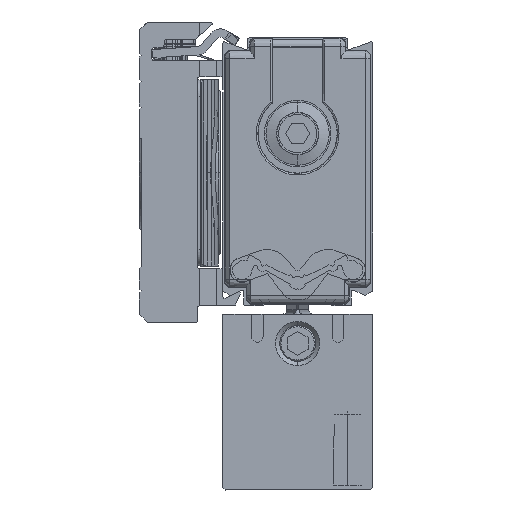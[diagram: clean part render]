
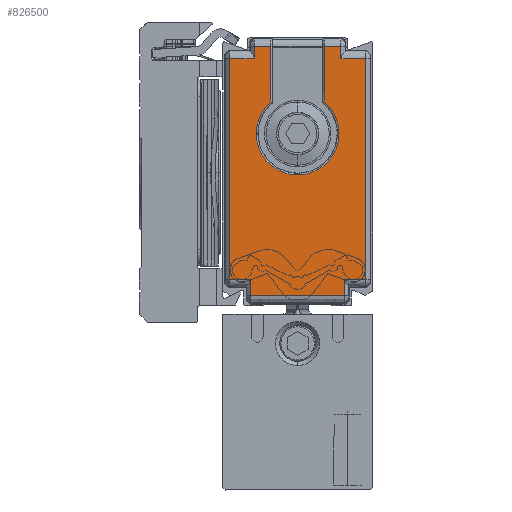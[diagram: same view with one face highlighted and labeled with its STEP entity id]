
A CAD part, left-side view. The second image highlights one B-rep face of the part: STEP entity #826500.
In plain terms, the highlighted planar face has unit normal (-1, 0, 0) as drawn and (0, 0, -1) by its records, which use the part's own axes.
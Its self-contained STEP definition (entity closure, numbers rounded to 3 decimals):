
#785660=CARTESIAN_POINT('',(24.688,30.224,-494.5));
#785670=VERTEX_POINT('',#785660);
#786720=CARTESIAN_POINT('',(31.365,35.75,-494.5));
#786730=DIRECTION('',(0.,-1.,0.));
#786740=VECTOR('',#786730,1.);
#786750=LINE('',#786720,#786740);
#786760=CARTESIAN_POINT('',(31.365,23.776,-494.5));
#786770=VERTEX_POINT('',#786760);
#786780=CARTESIAN_POINT('',(31.365,21.802,-494.5));
#786790=VERTEX_POINT('',#786780);
#786800=EDGE_CURVE('',#786770,#786790,#786750,.T.);
#793560=CARTESIAN_POINT('',(3.435,32.648,-494.5));
#793570=VERTEX_POINT('',#793560);
#793770=CARTESIAN_POINT('',(1.435,32.648,-494.5));
#793780=VERTEX_POINT('',#793770);
#793810=CARTESIAN_POINT('',(3.935,32.648,-494.5));
#793820=CARTESIAN_POINT('',(3.435,32.648,-494.5));
#793830=CARTESIAN_POINT('',(2.935,32.648,-494.5));
#793840=CARTESIAN_POINT('',(2.102,32.648,-494.5));
#793850=CARTESIAN_POINT('',(1.768,32.648,-494.5));
#793860=CARTESIAN_POINT('',(1.435,32.648,-494.5));
#793870=B_SPLINE_CURVE_WITH_KNOTS('',3,(#793810,#793820,#793830,#793840,
#793850,#793860),.UNSPECIFIED.,.F.,.F.,(4,2,4),(37.084,
38.584,39.584),.UNSPECIFIED.);
#793880=EDGE_CURVE('',#793570,#793780,#793870,.T.);
#795220=CARTESIAN_POINT('',(24.688,23.776,-494.5));
#795230=VERTEX_POINT('',#795220);
#797020=CARTESIAN_POINT('',(29.865,35.75,-494.5));
#797030=DIRECTION('',(0.,1.,0.));
#797040=VECTOR('',#797030,1.);
#797050=LINE('',#797020,#797040);
#797060=CARTESIAN_POINT('',(29.865,32.198,-494.5));
#797070=VERTEX_POINT('',#797060);
#797080=CARTESIAN_POINT('',(29.865,35.198,-494.5));
#797090=VERTEX_POINT('',#797080);
#797100=EDGE_CURVE('',#797070,#797090,#797050,.T.);
#798950=CARTESIAN_POINT('',(3.435,35.75,-494.5));
#798960=DIRECTION('',(0.,1.,0.));
#798970=VECTOR('',#798960,1.);
#798980=LINE('',#798950,#798970);
#798990=CARTESIAN_POINT('',(3.435,35.198,-494.5));
#799000=VERTEX_POINT('',#798990);
#799010=EDGE_CURVE('',#793570,#799000,#798980,.T.);
#799440=CARTESIAN_POINT('',(31.365,32.198,-494.5));
#799450=VERTEX_POINT('',#799440);
#799480=CARTESIAN_POINT('',(31.365,30.224,-494.5));
#799490=VERTEX_POINT('',#799480);
#799500=EDGE_CURVE('',#799450,#799490,#786750,.T.);
#800210=CARTESIAN_POINT('',(3.435,18.802,-494.5));
#800220=VERTEX_POINT('',#800210);
#800530=CARTESIAN_POINT('',(3.435,35.75,-494.5));
#800540=DIRECTION('',(0.,-1.,0.));
#800550=VECTOR('',#800540,1.);
#800560=LINE('',#800530,#800550);
#800570=CARTESIAN_POINT('',(3.435,21.352,-494.5));
#800580=VERTEX_POINT('',#800570);
#800590=EDGE_CURVE('',#800580,#800220,#800560,.T.);
#801440=CARTESIAN_POINT('',(1.435,21.352,-494.5));
#801450=VERTEX_POINT('',#801440);
#802920=CARTESIAN_POINT('',(3.935,21.352,-494.5));
#802930=CARTESIAN_POINT('',(3.435,21.352,-494.5));
#802940=CARTESIAN_POINT('',(2.935,21.352,-494.5));
#802950=CARTESIAN_POINT('',(2.102,21.352,-494.5));
#802960=CARTESIAN_POINT('',(1.768,21.352,-494.5));
#802970=CARTESIAN_POINT('',(1.435,21.352,-494.5));
#802980=B_SPLINE_CURVE_WITH_KNOTS('',3,(#802920,#802930,#802940,#802950,
#802960,#802970),.UNSPECIFIED.,.F.,.F.,(4,2,4),(37.084,
38.584,39.584),.UNSPECIFIED.);
#802990=EDGE_CURVE('',#800580,#801450,#802980,.T.);
#804170=CARTESIAN_POINT('',(1.435,35.75,-494.5));
#804180=DIRECTION('',(0.,1.,0.));
#804190=VECTOR('',#804180,1.);
#804200=LINE('',#804170,#804190);
#804210=EDGE_CURVE('',#801450,#793780,#804200,.T.);
#807960=CARTESIAN_POINT('',(0.15,30.224,-494.5));
#807970=DIRECTION('',(1.,0.,0.));
#807980=VECTOR('',#807970,1.);
#807990=LINE('',#807960,#807980);
#808000=EDGE_CURVE('',#785670,#799490,#807990,.T.);
#811740=CARTESIAN_POINT('',(29.865,21.802,-494.5));
#811750=VERTEX_POINT('',#811740);
#811800=CARTESIAN_POINT('',(29.365,21.802,-494.5));
#811810=CARTESIAN_POINT('',(29.782,21.802,-494.5));
#811820=CARTESIAN_POINT('',(30.198,21.802,-494.5));
#811830=CARTESIAN_POINT('',(30.865,21.802,-494.5));
#811840=CARTESIAN_POINT('',(31.115,21.802,-494.5));
#811850=CARTESIAN_POINT('',(31.365,21.802,-494.5));
#811860=B_SPLINE_CURVE_WITH_KNOTS('',3,(#811800,#811810,#811820,#811830,
#811840,#811850),.UNSPECIFIED.,.F.,.F.,(4,2,4),(37.587,
38.837,39.587),.UNSPECIFIED.);
#811870=EDGE_CURVE('',#811750,#786790,#811860,.T.);
#812200=CARTESIAN_POINT('',(29.365,32.198,-494.5));
#812210=CARTESIAN_POINT('',(29.782,32.198,-494.5));
#812220=CARTESIAN_POINT('',(30.198,32.198,-494.5));
#812230=CARTESIAN_POINT('',(30.865,32.198,-494.5));
#812240=CARTESIAN_POINT('',(31.115,32.198,-494.5));
#812250=CARTESIAN_POINT('',(31.365,32.198,-494.5));
#812260=B_SPLINE_CURVE_WITH_KNOTS('',3,(#812200,#812210,#812220,#812230,
#812240,#812250),.UNSPECIFIED.,.F.,.F.,(4,2,4),(37.587,
38.837,39.587),.UNSPECIFIED.);
#812270=EDGE_CURVE('',#797070,#799450,#812260,.T.);
#813260=CARTESIAN_POINT('',(29.865,18.802,-494.5));
#813270=VERTEX_POINT('',#813260);
#813300=CARTESIAN_POINT('',(3.435,18.802,-494.5));
#813310=CARTESIAN_POINT('',(7.84,18.802,-494.5));
#813320=CARTESIAN_POINT('',(12.245,18.802,-494.5));
#813330=CARTESIAN_POINT('',(21.055,18.802,-494.5));
#813340=CARTESIAN_POINT('',(25.46,18.802,-494.5));
#813350=CARTESIAN_POINT('',(29.865,18.802,-494.5));
#813360=B_SPLINE_CURVE_WITH_KNOTS('',3,(#813300,#813310,#813320,#813330,
#813340,#813350),.UNSPECIFIED.,.F.,.F.,(4,2,4),(24.334,
37.549,50.764),.UNSPECIFIED.);
#813370=EDGE_CURVE('',#800220,#813270,#813360,.T.);
#819700=CARTESIAN_POINT('',(29.865,35.75,-494.5));
#819710=DIRECTION('',(0.,-1.,0.));
#819720=VECTOR('',#819710,1.);
#819730=LINE('',#819700,#819720);
#819740=EDGE_CURVE('',#811750,#813270,#819730,.T.);
#820930=CARTESIAN_POINT('',(3.435,35.198,-494.5));
#820940=CARTESIAN_POINT('',(7.84,35.198,-494.5));
#820950=CARTESIAN_POINT('',(12.245,35.198,-494.5));
#820960=CARTESIAN_POINT('',(21.055,35.198,-494.5));
#820970=CARTESIAN_POINT('',(25.46,35.198,-494.5));
#820980=CARTESIAN_POINT('',(29.865,35.198,-494.5));
#820990=B_SPLINE_CURVE_WITH_KNOTS('',3,(#820930,#820940,#820950,#820960,
#820970,#820980),.UNSPECIFIED.,.F.,.F.,(4,2,4),(24.308,
37.523,50.738),.UNSPECIFIED.);
#821000=EDGE_CURVE('',#799000,#797090,#820990,.T.);
#825990=CARTESIAN_POINT('',(20.9,27.,-494.5));
#826000=DIRECTION('',(0.,0.,-1.));
#826010=DIRECTION('',(0.,1.,0.));
#826020=AXIS2_PLACEMENT_3D('',#825990,#826000,#826010);
#826030=CIRCLE('',#826020,4.974);
#826040=EDGE_CURVE('',#795230,#785670,#826030,.T.);
#826220=CARTESIAN_POINT('',(16.65,27.,-494.5));
#826230=DIRECTION('',(0.,0.,1.));
#826240=DIRECTION('',(0.,1.,0.));
#826250=AXIS2_PLACEMENT_3D('',#826220,#826230,#826240);
#826260=PLANE('',#826250);
#826270=ORIENTED_EDGE('',*,*,#826040,.F.);
#826280=ORIENTED_EDGE('',*,*,#808000,.F.);
#826290=ORIENTED_EDGE('',*,*,#799500,.T.);
#826300=ORIENTED_EDGE('',*,*,#812270,.T.);
#826310=ORIENTED_EDGE('',*,*,#797100,.F.);
#826320=ORIENTED_EDGE('',*,*,#821000,.T.);
#826330=ORIENTED_EDGE('',*,*,#799010,.T.);
#826340=ORIENTED_EDGE('',*,*,#793880,.F.);
#826350=ORIENTED_EDGE('',*,*,#804210,.T.);
#826360=ORIENTED_EDGE('',*,*,#802990,.T.);
#826370=ORIENTED_EDGE('',*,*,#800590,.F.);
#826380=ORIENTED_EDGE('',*,*,#813370,.F.);
#826390=ORIENTED_EDGE('',*,*,#819740,.T.);
#826400=ORIENTED_EDGE('',*,*,#811870,.F.);
#826410=ORIENTED_EDGE('',*,*,#786800,.T.);
#826420=CARTESIAN_POINT('',(0.15,23.776,-494.5));
#826430=DIRECTION('',(-1.,0.,0.));
#826440=VECTOR('',#826430,1.);
#826450=LINE('',#826420,#826440);
#826460=EDGE_CURVE('',#786770,#795230,#826450,.T.);
#826470=ORIENTED_EDGE('',*,*,#826460,.F.);
#826480=EDGE_LOOP('',(#826470,#826410,#826400,#826390,#826380,#826370,
#826360,#826350,#826340,#826330,#826320,#826310,#826300,#826290,#826280,
#826270));
#826490=FACE_OUTER_BOUND('',#826480,.T.);
#826500=ADVANCED_FACE('',(#826490),#826260,.F.);
